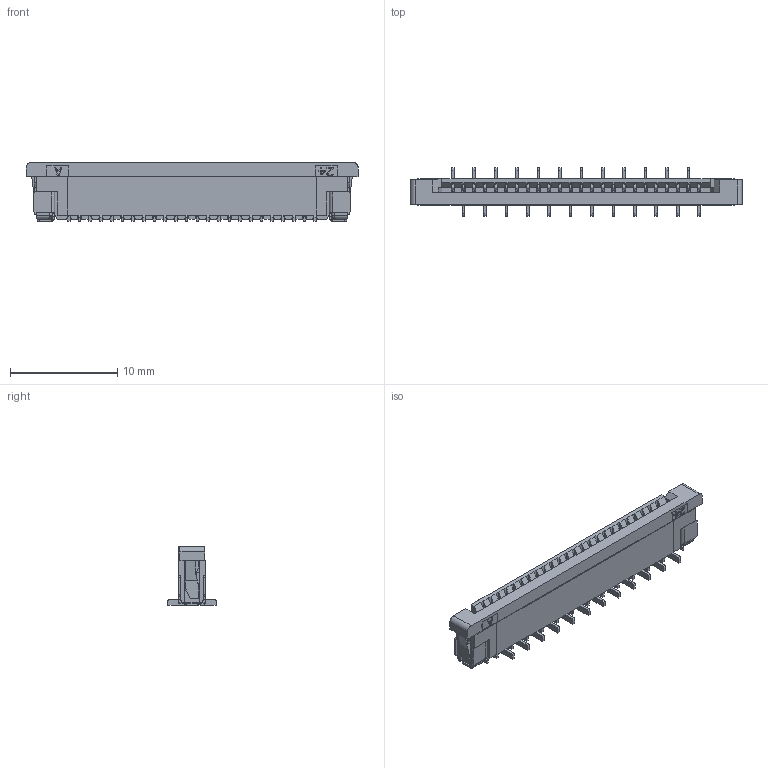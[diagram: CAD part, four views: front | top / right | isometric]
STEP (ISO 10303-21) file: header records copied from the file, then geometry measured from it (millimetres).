
FILE_DESCRIPTION (( 'STEP AP203' ), '1' );
FILE_NAME ('GT-F1001SV55-XXSBT02.STEP', '2023-12-27T08:16:51', ( 'Microsoft' ), ( 'Microsoft' ), 'SwSTEP 2.0', 'SolidWorks 2023', '' );
FILE_SCHEMA (( 'CONFIG_CONTROL_DESIGN' ));
Products named in the file (1): GT-F1001SV55-XXSBT02
Bounding box: 31 x 4.5 x 5.49 mm (x, y, z)
Surface area: 1456.3 mm2 (no closed solid volume)
Topology: 0 solids, 5 shells, 2438 faces, 7262 edges, 4685 vertices
Faces by surface type: plane 1662, cylinder 670, bspline 106
Entity records: 86592 total; most frequent: CARTESIAN_POINT 21465, ORIENTED_EDGE 14491, DIRECTION 12503, EDGE_CURVE 7262, VECTOR 5361, LINE 5361, VERTEX_POINT 4685, AXIS2_PLACEMENT_3D 3571
